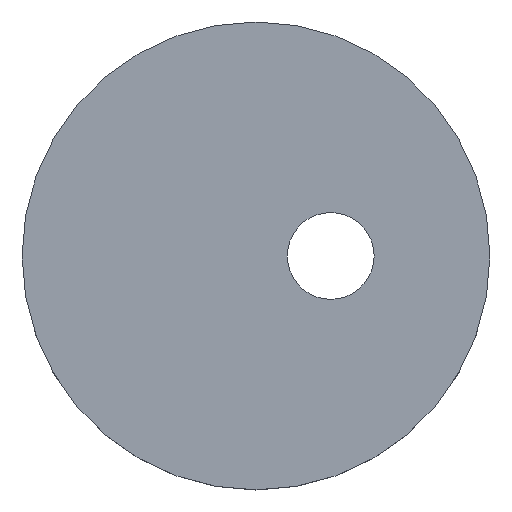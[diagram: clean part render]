
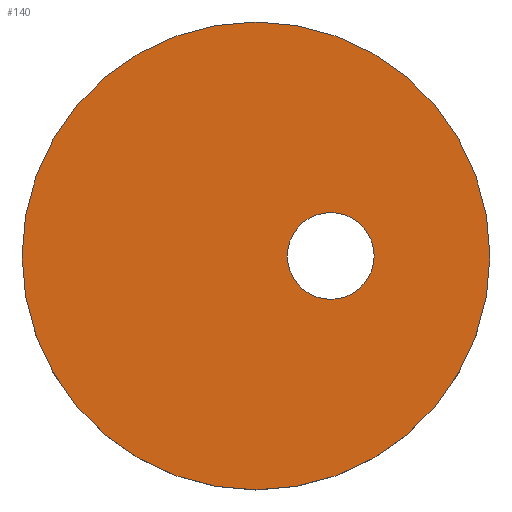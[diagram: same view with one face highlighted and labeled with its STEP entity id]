
A CAD part, top view. The second image highlights one B-rep face of the part: STEP entity #140.
In plain terms, the highlighted planar face has unit normal (0, 0, 1).
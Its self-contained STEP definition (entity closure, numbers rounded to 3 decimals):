
#24 = VERTEX_POINT('',#25);
#25 = CARTESIAN_POINT('',(48.5,0.,388.));
#32 = CYLINDRICAL_SURFACE('',#33,48.5);
#33 = AXIS2_PLACEMENT_3D('',#34,#35,#36);
#34 = CARTESIAN_POINT('',(0.,0.,374.));
#35 = DIRECTION('',(-0.,-0.,-1.));
#36 = DIRECTION('',(1.,0.,0.));
#51 = EDGE_CURVE('',#24,#24,#52,.T.);
#52 = SURFACE_CURVE('',#53,(#58,#65),.PCURVE_S1.);
#53 = CIRCLE('',#54,48.5);
#54 = AXIS2_PLACEMENT_3D('',#55,#56,#57);
#55 = CARTESIAN_POINT('',(0.,0.,388.));
#56 = DIRECTION('',(0.,0.,1.));
#57 = DIRECTION('',(1.,0.,0.));
#58 = PCURVE('',#32,#59);
#59 = DEFINITIONAL_REPRESENTATION('',(#60),#64);
#60 = LINE('',#61,#62);
#61 = CARTESIAN_POINT('',(-0.,-14.));
#62 = VECTOR('',#63,1.);
#63 = DIRECTION('',(-1.,0.));
#64 = ( GEOMETRIC_REPRESENTATION_CONTEXT(2) 
PARAMETRIC_REPRESENTATION_CONTEXT() REPRESENTATION_CONTEXT('2D SPACE',''
  ) );
#65 = PCURVE('',#66,#71);
#66 = PLANE('',#67);
#67 = AXIS2_PLACEMENT_3D('',#68,#69,#70);
#68 = CARTESIAN_POINT('',(0.,0.,388.));
#69 = DIRECTION('',(0.,0.,1.));
#70 = DIRECTION('',(1.,0.,-0.));
#71 = DEFINITIONAL_REPRESENTATION('',(#72),#76);
#72 = CIRCLE('',#73,48.5);
#73 = AXIS2_PLACEMENT_2D('',#74,#75);
#74 = CARTESIAN_POINT('',(0.,0.));
#75 = DIRECTION('',(1.,0.));
#76 = ( GEOMETRIC_REPRESENTATION_CONTEXT(2) 
PARAMETRIC_REPRESENTATION_CONTEXT() REPRESENTATION_CONTEXT('2D SPACE',''
  ) );
#140 = ADVANCED_FACE('',(#141,#144),#66,.T.);
#141 = FACE_BOUND('',#142,.T.);
#142 = EDGE_LOOP('',(#143));
#143 = ORIENTED_EDGE('',*,*,#51,.T.);
#144 = FACE_BOUND('',#145,.T.);
#145 = EDGE_LOOP('',(#146));
#146 = ORIENTED_EDGE('',*,*,#147,.T.);
#147 = EDGE_CURVE('',#148,#148,#150,.T.);
#148 = VERTEX_POINT('',#149);
#149 = CARTESIAN_POINT('',(24.5,0.,388.));
#150 = SURFACE_CURVE('',#151,(#156,#167),.PCURVE_S1.);
#151 = CIRCLE('',#152,9.);
#152 = AXIS2_PLACEMENT_3D('',#153,#154,#155);
#153 = CARTESIAN_POINT('',(15.5,0.,388.));
#154 = DIRECTION('',(0.,0.,-1.));
#155 = DIRECTION('',(1.,0.,0.));
#156 = PCURVE('',#66,#157);
#157 = DEFINITIONAL_REPRESENTATION('',(#158),#166);
#158 = ( BOUNDED_CURVE() B_SPLINE_CURVE(2,(#159,#160,#161,#162,#163,#164
,#165),.UNSPECIFIED.,.T.,.F.) B_SPLINE_CURVE_WITH_KNOTS((1,2,2,2,2,1),(
    -2.094,0.,2.094,4.189,6.283,
8.378),.UNSPECIFIED.) CURVE() GEOMETRIC_REPRESENTATION_ITEM() 
RATIONAL_B_SPLINE_CURVE((1.,0.5,1.,0.5,1.,0.5,1.)) REPRESENTATION_ITEM(
  '') );
#159 = CARTESIAN_POINT('',(24.5,0.));
#160 = CARTESIAN_POINT('',(24.5,-15.588));
#161 = CARTESIAN_POINT('',(11.,-7.794));
#162 = CARTESIAN_POINT('',(-2.5,0.));
#163 = CARTESIAN_POINT('',(11.,7.794));
#164 = CARTESIAN_POINT('',(24.5,15.588));
#165 = CARTESIAN_POINT('',(24.5,0.));
#166 = ( GEOMETRIC_REPRESENTATION_CONTEXT(2) 
PARAMETRIC_REPRESENTATION_CONTEXT() REPRESENTATION_CONTEXT('2D SPACE',''
  ) );
#167 = PCURVE('',#168,#173);
#168 = CYLINDRICAL_SURFACE('',#169,9.);
#169 = AXIS2_PLACEMENT_3D('',#170,#171,#172);
#170 = CARTESIAN_POINT('',(15.5,0.,386.));
#171 = DIRECTION('',(-0.,-0.,-1.));
#172 = DIRECTION('',(1.,0.,0.));
#173 = DEFINITIONAL_REPRESENTATION('',(#174),#178);
#174 = LINE('',#175,#176);
#175 = CARTESIAN_POINT('',(-6.283,-2.));
#176 = VECTOR('',#177,1.);
#177 = DIRECTION('',(1.,-0.));
#178 = ( GEOMETRIC_REPRESENTATION_CONTEXT(2) 
PARAMETRIC_REPRESENTATION_CONTEXT() REPRESENTATION_CONTEXT('2D SPACE',''
  ) );
